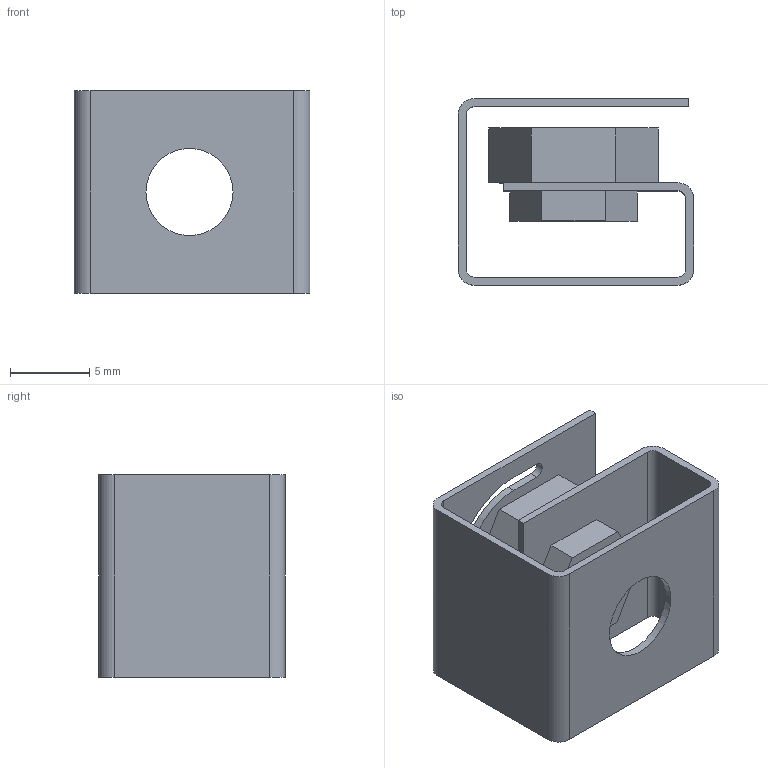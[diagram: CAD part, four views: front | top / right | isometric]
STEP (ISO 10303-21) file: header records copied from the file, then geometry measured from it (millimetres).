
FILE_DESCRIPTION((''),'2;1');
FILE_NAME('FA-148','2020-05-26T13:27:42',('dking'),('Keithley Instruments'),'CREO PARAMETRIC BY PTC INC, 2019080','CREO PARAMETRIC BY PTC INC, 2019080','');
FILE_SCHEMA(('AUTOMOTIVE_DESIGN { 1 0 10303 214 1 1 1 1 }'));
Length unit declared in the file: inch
Products named in the file (1): FA-148
Bounding box: 14.92 x 11.81 x 12.83 mm (x, y, z)
Volume: 523.8 mm3; surface area: 1679.6 mm2
Topology: 1 solids, 1 shells, 61 faces, 166 edges, 110 vertices
Faces by surface type: plane 41, cylinder 20
Entity records: 2546 total; most frequent: CARTESIAN_POINT 354, DIRECTION 352, ORIENTED_EDGE 332, COLOUR_RGB 190, EDGE_CURVE 166, VECTOR 127, LINE 127, AXIS2_PLACEMENT_3D 111
